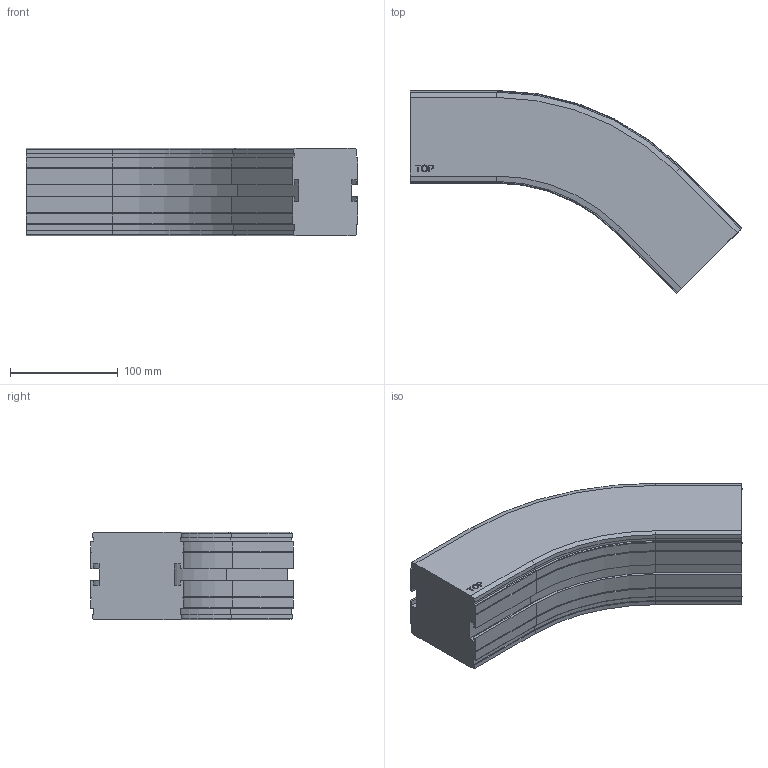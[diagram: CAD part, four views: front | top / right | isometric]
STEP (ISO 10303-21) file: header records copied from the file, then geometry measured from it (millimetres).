
FILE_DESCRIPTION((''),'2;1');
FILE_NAME('C:\Vault Klient\Projekt\Koncept konstruktion\Serie 830 Balk\830-5150.stp','2009-11-27T08:41:40',('Mathias'),(''),'Autodesk Inventor 2010','Autodesk Inventor 2010','');
FILE_SCHEMA(('AUTOMOTIVE_DESIGN { 1 0 10303 214 1 1 1 1 }'));
Length unit declared in the file: millimetre
Products named in the file (1): 830-5150
Bounding box: 308.4 x 188.55 x 81.5 mm (x, y, z)
Volume: 2107589.1 mm3; surface area: 142859.3 mm2
Topology: 1 solids, 1 shells, 169 faces, 446 edges, 284 vertices
Faces by surface type: plane 109, cylinder 30, bspline 14, cone 12, torus 4
Entity records: 5295 total; most frequent: CARTESIAN_POINT 1094, ORIENTED_EDGE 892, DIRECTION 802, EDGE_CURVE 446, VECTOR 346, LINE 346, VERTEX_POINT 284, AXIS2_PLACEMENT_3D 228
